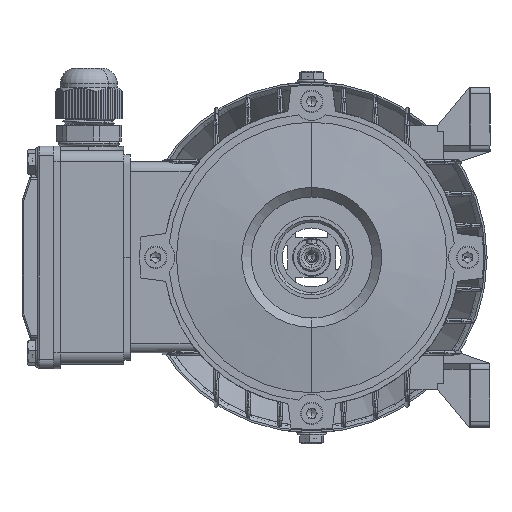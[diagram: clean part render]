
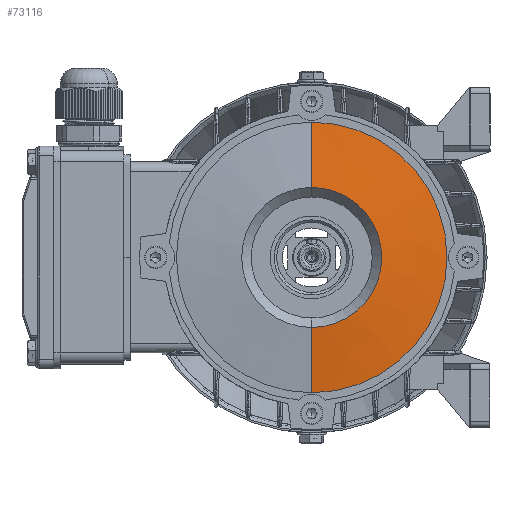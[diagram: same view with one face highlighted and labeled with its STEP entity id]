
A CAD part, left-side view. The second image highlights one B-rep face of the part: STEP entity #73116.
In plain terms, the highlighted conical face has half-angle 83.047 degrees and reference radius 42.5 mm.
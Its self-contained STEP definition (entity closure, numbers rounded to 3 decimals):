
#709 = AXIS2_PLACEMENT_3D ( 'NONE', #88113, #88414, #8301 ) ;
#2633 = CARTESIAN_POINT ( 'NONE',  ( -7., 0., -22. ) ) ;
#3419 = CARTESIAN_POINT ( 'NONE',  ( -4.5, 0., 42.5 ) ) ;
#7652 = DIRECTION ( 'NONE',  ( 0., 0., -1. ) ) ;
#8269 = VERTEX_POINT ( 'NONE', #76777 ) ;
#8301 = DIRECTION ( 'NONE',  ( 0., 0., 1. ) ) ;
#10505 = DIRECTION ( 'NONE',  ( 0.121, 0., -0.993 ) ) ;
#14627 = CARTESIAN_POINT ( 'NONE',  ( -4.5, 0., 0. ) ) ;
#15249 = EDGE_CURVE ( 'NONE', #69303, #62548, #39688, .T. ) ;
#18221 = ORIENTED_EDGE ( 'NONE', *, *, #29956, .F. ) ;
#23559 = EDGE_CURVE ( 'NONE', #39388, #69303, #59883, .T. ) ;
#23888 = VECTOR ( 'NONE', #61652, 1000. ) ;
#26814 = AXIS2_PLACEMENT_3D ( 'NONE', #28523, #49530, #56531 ) ;
#28523 = CARTESIAN_POINT ( 'NONE',  ( -4.5, 0., 0. ) ) ;
#29956 = EDGE_CURVE ( 'NONE', #8269, #62548, #43254, .T. ) ;
#34247 = CARTESIAN_POINT ( 'NONE',  ( -4.5, 0., -42.5 ) ) ;
#39388 = VERTEX_POINT ( 'NONE', #2633 ) ;
#39688 = CIRCLE ( 'NONE', #26814, 42.5 ) ;
#40553 = VECTOR ( 'NONE', #10505, 1000. ) ;
#43254 = LINE ( 'NONE', #3419, #23888 ) ;
#46880 = ORIENTED_EDGE ( 'NONE', *, *, #57581, .F. ) ;
#49530 = DIRECTION ( 'NONE',  ( -1., 0., 0. ) ) ;
#51164 = DIRECTION ( 'NONE',  ( 1., 0., 0. ) ) ;
#56531 = DIRECTION ( 'NONE',  ( 0., 0., 1. ) ) ;
#57581 = EDGE_CURVE ( 'NONE', #39388, #8269, #84778, .T. ) ;
#58149 = CARTESIAN_POINT ( 'NONE',  ( -4.5, 0., 42.5 ) ) ;
#59883 = LINE ( 'NONE', #89967, #40553 ) ;
#61652 = DIRECTION ( 'NONE',  ( 0.121, 0., 0.993 ) ) ;
#61773 = ORIENTED_EDGE ( 'NONE', *, *, #15249, .T. ) ;
#62548 = VERTEX_POINT ( 'NONE', #58149 ) ;
#69303 = VERTEX_POINT ( 'NONE', #34247 ) ;
#72000 = ORIENTED_EDGE ( 'NONE', *, *, #23559, .T. ) ;
#73116 = ADVANCED_FACE ( 'NONE', ( #89547 ), #73636, .T. ) ;
#73636 = CONICAL_SURFACE ( 'NONE', #89242, 42.5, 1.449 ) ;
#76777 = CARTESIAN_POINT ( 'NONE',  ( -7., 0., 22. ) ) ;
#84778 = CIRCLE ( 'NONE', #709, 22. ) ;
#85694 = EDGE_LOOP ( 'NONE', ( #18221, #46880, #72000, #61773 ) ) ;
#88113 = CARTESIAN_POINT ( 'NONE',  ( -7., 0., 0. ) ) ;
#88414 = DIRECTION ( 'NONE',  ( -1., 0., 0. ) ) ;
#89242 = AXIS2_PLACEMENT_3D ( 'NONE', #14627, #51164, #7652 ) ;
#89547 = FACE_OUTER_BOUND ( 'NONE', #85694, .T. ) ;
#89967 = CARTESIAN_POINT ( 'NONE',  ( -4.5, 0., -42.5 ) ) ;
